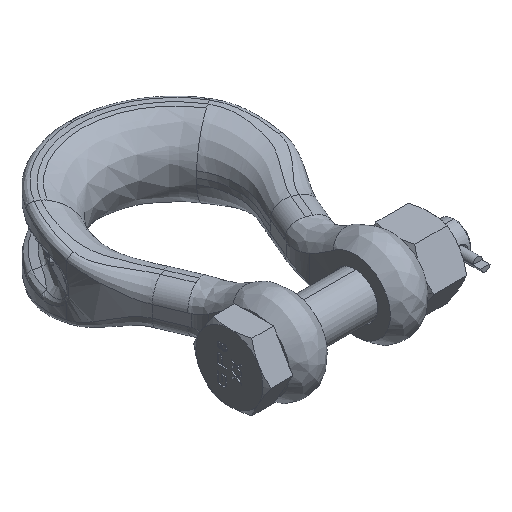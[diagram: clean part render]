
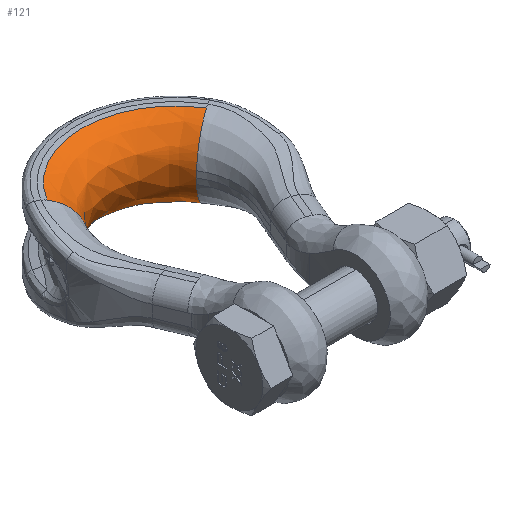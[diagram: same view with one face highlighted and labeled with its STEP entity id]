
A CAD part, isometric view. The second image highlights one B-rep face of the part: STEP entity #121.
In plain terms, the highlighted free-form (B-spline) face has degree [3, 3] with [4, 4] control points.
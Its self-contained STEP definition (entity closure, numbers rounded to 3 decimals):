
#121=ADVANCED_FACE('',(#738),#739,.T.);
#738=FACE_OUTER_BOUND('',#1970,.T.);
#739=(B_SPLINE_SURFACE(3,3,((#1972,#1973,#1974,#1975),(#1976,#1977,#1978,#1979),(#1980,#1981,#1982,#1983),(#1984,#1985,#1986,#1987)),.UNSPECIFIED.,.F.,.F.,.F.)B_SPLINE_SURFACE_WITH_KNOTS((4,4),(4,4),(0.0,1.0),(0.0,1.0),.UNSPECIFIED.)RATIONAL_B_SPLINE_SURFACE(((1.0,0.68,0.68,1.0),(0.516,0.351,0.351,0.516),(0.516,0.351,0.351,0.516),(1.0,0.68,0.68,1.0)))BOUNDED_SURFACE()REPRESENTATION_ITEM('')GEOMETRIC_REPRESENTATION_ITEM()SURFACE());
#1970=EDGE_LOOP('',(#22110,#22111,#22112,#22113,#22114,#22115,#22116,#22117,#22118,#22119));
#1972=CARTESIAN_POINT('',(-40.362,99.531,20.192));
#1973=CARTESIAN_POINT('',(-19.797,133.367,20.192));
#1974=CARTESIAN_POINT('',(19.797,133.367,20.192));
#1975=CARTESIAN_POINT('',(40.362,99.531,20.192));
#1976=CARTESIAN_POINT('',(-18.944,86.514,13.033));
#1977=CARTESIAN_POINT('',(-9.292,102.395,13.033));
#1978=CARTESIAN_POINT('',(9.292,102.395,13.033));
#1979=CARTESIAN_POINT('',(18.944,86.514,13.033));
#1980=CARTESIAN_POINT('',(-18.944,86.514,-13.033));
#1981=CARTESIAN_POINT('',(-9.292,102.395,-13.033));
#1982=CARTESIAN_POINT('',(9.292,102.395,-13.033));
#1983=CARTESIAN_POINT('',(18.944,86.514,-13.033));
#1984=CARTESIAN_POINT('',(-40.362,99.531,-20.192));
#1985=CARTESIAN_POINT('',(-19.797,133.367,-20.192));
#1986=CARTESIAN_POINT('',(19.797,133.367,-20.192));
#1987=CARTESIAN_POINT('',(40.362,99.531,-20.192));
#22110=ORIENTED_EDGE('',*,*,#26311,.T.);
#22111=ORIENTED_EDGE('',*,*,#26312,.T.);
#22112=ORIENTED_EDGE('',*,*,#26313,.T.);
#22113=ORIENTED_EDGE('',*,*,#26314,.T.);
#22114=ORIENTED_EDGE('',*,*,#26315,.T.);
#22115=ORIENTED_EDGE('',*,*,#26316,.T.);
#22116=ORIENTED_EDGE('',*,*,#26317,.T.);
#22117=ORIENTED_EDGE('',*,*,#26318,.T.);
#22118=ORIENTED_EDGE('',*,*,#26319,.T.);
#22119=ORIENTED_EDGE('',*,*,#26320,.T.);
#26311=EDGE_CURVE('',#27978,#27979,#27980,.T.);
#26312=EDGE_CURVE('',#27979,#27981,#27982,.T.);
#26313=EDGE_CURVE('',#27981,#27983,#27984,.T.);
#26314=EDGE_CURVE('',#27983,#27985,#27986,.T.);
#26315=EDGE_CURVE('',#27985,#27987,#27988,.T.);
#26316=EDGE_CURVE('',#27987,#27989,#27990,.T.);
#26317=EDGE_CURVE('',#27989,#27991,#27992,.T.);
#26318=EDGE_CURVE('',#27991,#27993,#27994,.T.);
#26319=EDGE_CURVE('',#27993,#27995,#27996,.T.);
#26320=EDGE_CURVE('',#27995,#27978,#27997,.T.);
#27978=VERTEX_POINT('',#31675);
#27979=VERTEX_POINT('',#31676);
#27980=CIRCLE('',#31677,47.232);
#27981=VERTEX_POINT('',#31678);
#27982=(B_SPLINE_CURVE(3,(#31680,#31681,#31682,#31683),.UNSPECIFIED.,.F.,.F.)B_SPLINE_CURVE_WITH_KNOTS((4,4),(0.0,1.0),.UNSPECIFIED.)RATIONAL_B_SPLINE_CURVE((1.0,0.893,0.893,1.0))BOUNDED_CURVE()REPRESENTATION_ITEM('')GEOMETRIC_REPRESENTATION_ITEM()CURVE());
#27983=VERTEX_POINT('',#31690);
#27984=(B_SPLINE_CURVE(3,(#31692,#31693,#31694,#31695),.UNSPECIFIED.,.F.,.F.)B_SPLINE_CURVE_WITH_KNOTS((4,4),(0.0,1.0),.UNSPECIFIED.)RATIONAL_B_SPLINE_CURVE((1.0,0.998,0.998,1.0))BOUNDED_CURVE()REPRESENTATION_ITEM('')GEOMETRIC_REPRESENTATION_ITEM()CURVE());
#27985=VERTEX_POINT('',#31702);
#27986=(B_SPLINE_CURVE(3,(#31704,#31705,#31706,#31707),.UNSPECIFIED.,.F.,.F.)B_SPLINE_CURVE_WITH_KNOTS((4,4),(0.0,1.0),.UNSPECIFIED.)RATIONAL_B_SPLINE_CURVE((1.0,0.998,0.998,1.0))BOUNDED_CURVE()REPRESENTATION_ITEM('')GEOMETRIC_REPRESENTATION_ITEM()CURVE());
#27987=VERTEX_POINT('',#31714);
#27988=(B_SPLINE_CURVE(3,(#31716,#31717,#31718,#31719),.UNSPECIFIED.,.F.,.F.)B_SPLINE_CURVE_WITH_KNOTS((4,4),(0.0,1.0),.UNSPECIFIED.)RATIONAL_B_SPLINE_CURVE((1.0,0.893,0.893,1.0))BOUNDED_CURVE()REPRESENTATION_ITEM('')GEOMETRIC_REPRESENTATION_ITEM()CURVE());
#27989=VERTEX_POINT('',#31726);
#27990=CIRCLE('',#31727,47.232);
#27991=VERTEX_POINT('',#31728);
#27992=(B_SPLINE_CURVE(3,(#31730,#31731,#31732,#31733),.UNSPECIFIED.,.F.,.F.)B_SPLINE_CURVE_WITH_KNOTS((4,4),(0.0,1.0),.UNSPECIFIED.)RATIONAL_B_SPLINE_CURVE((1.0,0.893,0.893,1.0))BOUNDED_CURVE()REPRESENTATION_ITEM('')GEOMETRIC_REPRESENTATION_ITEM()CURVE());
#27993=VERTEX_POINT('',#31740);
#27994=(B_SPLINE_CURVE(3,(#31742,#31743,#31744,#31745),.UNSPECIFIED.,.F.,.F.)B_SPLINE_CURVE_WITH_KNOTS((4,4),(0.0,1.0),.UNSPECIFIED.)RATIONAL_B_SPLINE_CURVE((1.0,0.998,0.998,1.0))BOUNDED_CURVE()REPRESENTATION_ITEM('')GEOMETRIC_REPRESENTATION_ITEM()CURVE());
#27995=VERTEX_POINT('',#31752);
#27996=(B_SPLINE_CURVE(3,(#31754,#31755,#31756,#31757),.UNSPECIFIED.,.F.,.F.)B_SPLINE_CURVE_WITH_KNOTS((4,4),(0.0,1.0),.UNSPECIFIED.)RATIONAL_B_SPLINE_CURVE((1.0,0.998,0.998,1.0))BOUNDED_CURVE()REPRESENTATION_ITEM('')GEOMETRIC_REPRESENTATION_ITEM()CURVE());
#27997=(B_SPLINE_CURVE(3,(#31765,#31766,#31767,#31768),.UNSPECIFIED.,.F.,.F.)B_SPLINE_CURVE_WITH_KNOTS((4,4),(0.0,1.0),.UNSPECIFIED.)RATIONAL_B_SPLINE_CURVE((1.0,0.893,0.893,1.0))BOUNDED_CURVE()REPRESENTATION_ITEM('')GEOMETRIC_REPRESENTATION_ITEM()CURVE());
#31675=CARTESIAN_POINT('',(40.362,99.531,20.192));
#31676=CARTESIAN_POINT('',(-40.362,99.531,20.192));
#31677=AXIS2_PLACEMENT_3D('',#44692,#44693,#44694);
#31678=CARTESIAN_POINT('',(-27.53,91.732,3.));
#31680=CARTESIAN_POINT('',(-40.362,99.531,20.192));
#31681=CARTESIAN_POINT('',(-33.36,95.276,17.852));
#31682=CARTESIAN_POINT('',(-28.57,92.364,11.434));
#31683=CARTESIAN_POINT('',(-27.53,91.732,3.));
#31690=CARTESIAN_POINT('',(-27.345,91.62,0.));
#31692=CARTESIAN_POINT('',(-27.53,91.732,3.));
#31693=CARTESIAN_POINT('',(-27.407,91.657,2.006));
#31694=CARTESIAN_POINT('',(-27.345,91.62,1.004));
#31695=CARTESIAN_POINT('',(-27.345,91.62,0.));
#31702=CARTESIAN_POINT('',(-27.53,91.732,-3.));
#31704=CARTESIAN_POINT('',(-27.345,91.62,0.));
#31705=CARTESIAN_POINT('',(-27.345,91.62,-1.004));
#31706=CARTESIAN_POINT('',(-27.407,91.657,-2.006));
#31707=CARTESIAN_POINT('',(-27.53,91.732,-3.));
#31714=CARTESIAN_POINT('',(-40.362,99.531,-20.192));
#31716=CARTESIAN_POINT('',(-27.53,91.732,-3.));
#31717=CARTESIAN_POINT('',(-28.57,92.364,-11.434));
#31718=CARTESIAN_POINT('',(-33.36,95.276,-17.852));
#31719=CARTESIAN_POINT('',(-40.362,99.531,-20.192));
#31726=CARTESIAN_POINT('',(40.362,99.531,-20.192));
#31727=AXIS2_PLACEMENT_3D('',#44695,#44696,#44697);
#31728=CARTESIAN_POINT('',(27.53,91.732,-3.));
#31730=CARTESIAN_POINT('',(40.362,99.531,-20.192));
#31731=CARTESIAN_POINT('',(33.36,95.276,-17.852));
#31732=CARTESIAN_POINT('',(28.57,92.364,-11.434));
#31733=CARTESIAN_POINT('',(27.53,91.732,-3.));
#31740=CARTESIAN_POINT('',(27.345,91.62,0.));
#31742=CARTESIAN_POINT('',(27.53,91.732,-3.));
#31743=CARTESIAN_POINT('',(27.407,91.657,-2.006));
#31744=CARTESIAN_POINT('',(27.345,91.62,-1.004));
#31745=CARTESIAN_POINT('',(27.345,91.62,0.));
#31752=CARTESIAN_POINT('',(27.53,91.732,3.));
#31754=CARTESIAN_POINT('',(27.345,91.62,0.));
#31755=CARTESIAN_POINT('',(27.345,91.62,1.004));
#31756=CARTESIAN_POINT('',(27.407,91.657,2.006));
#31757=CARTESIAN_POINT('',(27.53,91.732,3.));
#31765=CARTESIAN_POINT('',(27.53,91.732,3.));
#31766=CARTESIAN_POINT('',(28.57,92.364,11.434));
#31767=CARTESIAN_POINT('',(33.36,95.276,17.852));
#31768=CARTESIAN_POINT('',(40.362,99.531,20.192));
#44692=CARTESIAN_POINT('',(0.,75.0,20.192));
#44693=DIRECTION('',(0.0,0.0,1.0));
#44694=DIRECTION('',(-1.0,0.,0.0));
#44695=CARTESIAN_POINT('',(0.,75.0,-20.192));
#44696=DIRECTION('',(0.0,0.0,-1.0));
#44697=DIRECTION('',(-1.0,0.0,0.0));
